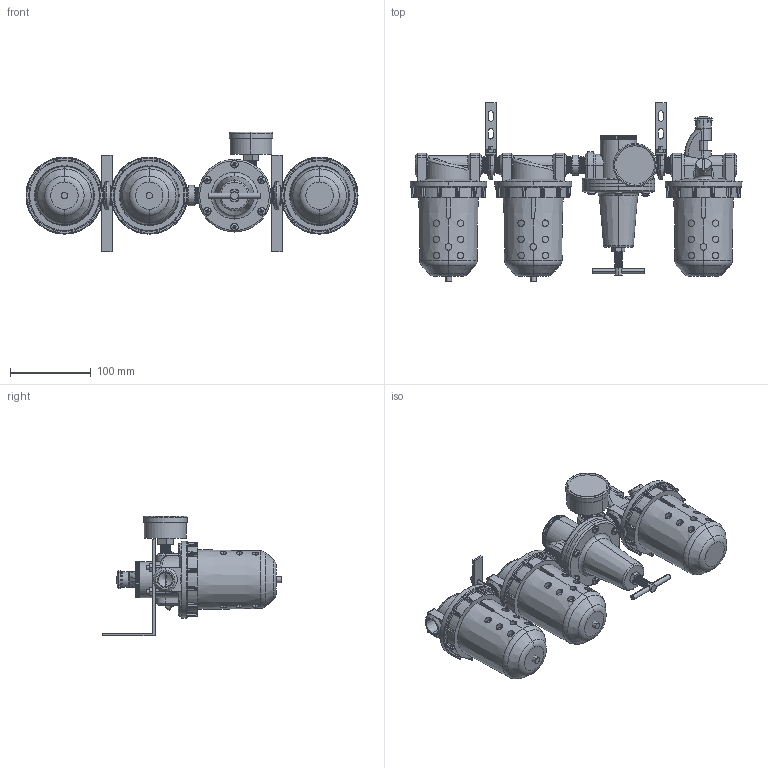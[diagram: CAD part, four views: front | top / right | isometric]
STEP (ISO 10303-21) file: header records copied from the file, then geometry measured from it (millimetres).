
FILE_DESCRIPTION (( 'STEP AP203' ), '1' );
FILE_NAME ('A728##-04YB#.STEP', '2016-01-14T17:47:58', ( '' ), ( '' ), 'SwSTEP 2.0', 'SolidWorks 2014', '' );
FILE_SCHEMA (( 'CONFIG_CONTROL_DESIGN' ));
Length unit declared in the file: millimetre
Products named in the file (24): A728##-04YB#; L606-04; L606-W-06-4; R119-04-1; R119-02-5; R119-04-4; L606-W-06-5; F602-04-上; R119-02-6; ISO 7045 - M5 x 12; R119-02-7; L型-04; R119-04-無固定架; L606-W-06-3; L606-W-04-1; 50-P-AD=1-4PT-1; R119-04-2; F602-04#YB#; F602-04-下; 50-P-AD=1-4PT.SLDPRT; R119-04-3; 50-P-AD=1-4PT-2; 1-2-圓
Assembly tree (34 placements, depth 4):
  A728##-04YB#
    F602-04#YB#  x2
      L606-W-06-5
      F602-04-上
      F602-04-下
    1-2-圓  x3
    L606-04
      L606-W-06-4
      L606-W-06-3  x2
      L606-W-04-1
      L606-04
    L型-04  x2
    R119-04-無固定架
      R119-04-1
      R119-04-2
      R119-04-3
      R119-04-4
      R119-02-5
      R119-02-7
      R119-02-6
      ISO 7045 - M5 x 12  x7
      50-P-AD=1-4PT.SLDPRT
        50-P-AD=1-4PT-1
        50-P-AD=1-4PT-2
Bounding box: 412.25 x 221.7 x 149 mm (x, y, z)
Volume: 2203109.4 mm3; surface area: 301533 mm2
Topology: 38 solids, 38 shells, 2204 faces, 5400 edges, 3244 vertices
Faces by surface type: plane 686, cylinder 513, cone 452, bspline 318, torus 131, sphere 104
Entity records: 65025 total; most frequent: CARTESIAN_POINT 30599, ORIENTED_EDGE 7096, DIRECTION 6021, EDGE_CURVE 3548, AXIS2_PLACEMENT_3D 2462, VERTEX_POINT 2158, EDGE_LOOP 1564, FACE_OUTER_BOUND 1485
